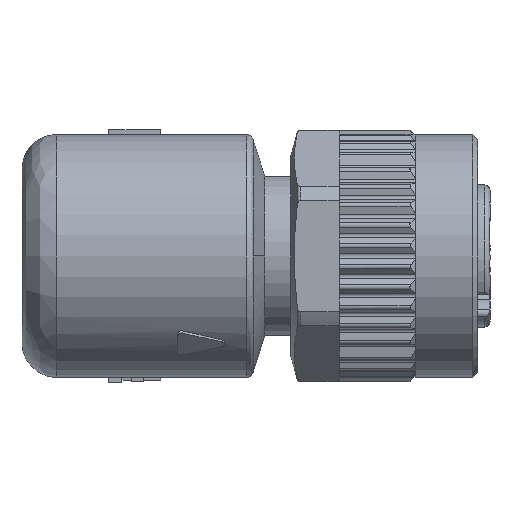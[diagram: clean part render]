
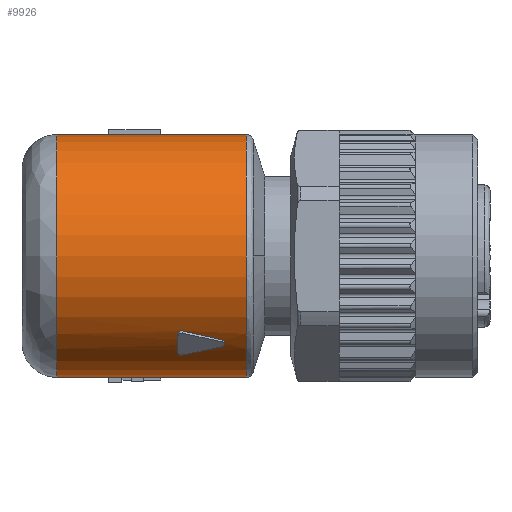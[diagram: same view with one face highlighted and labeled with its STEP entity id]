
A CAD part, left-side view. The second image highlights one B-rep face of the part: STEP entity #9926.
In plain terms, the highlighted cylindrical face has radius 7 mm (diameter 14 mm), a partial arc.
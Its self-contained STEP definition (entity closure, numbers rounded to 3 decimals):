
#43 = CYLINDRICAL_SURFACE ( 'NONE', #893, 7. ) ;
#150 = EDGE_CURVE ( 'NONE', #10716, #7501, #13731, .T. ) ;
#274 = DIRECTION ( 'NONE',  ( 0., 1., 0. ) ) ;
#367 = CARTESIAN_POINT ( 'NONE',  ( 1.609, -2.5, -4.465 ) ) ;
#454 = FACE_BOUND ( 'NONE', #12303, .T. ) ;
#470 = CARTESIAN_POINT ( 'NONE',  ( 1.952, -5.059, -4.849 ) ) ;
#482 = ORIENTED_EDGE ( 'NONE', *, *, #12151, .T. ) ;
#893 = AXIS2_PLACEMENT_3D ( 'NONE', #10616, #5299, #12003 ) ;
#928 = CARTESIAN_POINT ( 'NONE',  ( 2.76, -2.774, -5.57 ) ) ;
#1094 = CARTESIAN_POINT ( 'NONE',  ( 2.116, -5.2, -5.015 ) ) ;
#1336 = EDGE_CURVE ( 'NONE', #7163, #2844, #16529, .T. ) ;
#1565 = CARTESIAN_POINT ( 'NONE',  ( 2.395, -4.294, -5.277 ) ) ;
#1725 = CARTESIAN_POINT ( 'NONE',  ( 1.528, -2.534, -4.365 ) ) ;
#2159 =( BOUNDED_CURVE ( )  B_SPLINE_CURVE ( 3, ( #5571, #1565, #4275, #13688 ),
 .UNSPECIFIED., .F., .T. ) 
 B_SPLINE_CURVE_WITH_KNOTS ( ( 4, 4 ),
 ( 4.747, 4.847 ),
 .UNSPECIFIED. ) 
 CURVE ( )  GEOMETRIC_REPRESENTATION_ITEM ( )  RATIONAL_B_SPLINE_CURVE ( ( 1., 0.999, 0.999, 1. ) ) 
 REPRESENTATION_ITEM ( '' )  );
#2203 = CARTESIAN_POINT ( 'NONE',  ( 2.772, -2.647, -5.579 ) ) ;
#2419 = CARTESIAN_POINT ( 'NONE',  ( 2.196, -5.135, -5.092 ) ) ;
#2632 = CARTESIAN_POINT ( 'NONE',  ( 2.613, -2.5, -5.455 ) ) ;
#2716 = CARTESIAN_POINT ( 'NONE',  ( 6.98, 4.5, 7. ) ) ;
#2729 = CARTESIAN_POINT ( 'NONE',  ( 1.636, -3.533, -4.504 ) ) ;
#2844 = VERTEX_POINT ( 'NONE', #12159 ) ;
#3053 = CARTESIAN_POINT ( 'NONE',  ( 1.477, -2.713, -4.301 ) ) ;
#3334 = LINE ( 'NONE', #8194, #16810 ) ;
#3555 = CARTESIAN_POINT ( 'NONE',  ( 6.98, -6.447, 7. ) ) ;
#3623 = CARTESIAN_POINT ( 'NONE',  ( 2.754, -2.595, -5.565 ) ) ;
#3793 = CARTESIAN_POINT ( 'NONE',  ( 2.224, -5.059, -5.118 ) ) ;
#3826 = VECTOR ( 'NONE', #7468, 1000. ) ;
#4034 = ORIENTED_EDGE ( 'NONE', *, *, #14087, .T. ) ;
#4089 = CIRCLE ( 'NONE', #12686, 7. ) ;
#4095 = CARTESIAN_POINT ( 'NONE',  ( 1.79, -4.295, -4.68 ) ) ;
#4174 = DIRECTION ( 'NONE',  ( 0., 1., 0. ) ) ;
#4266 = DIRECTION ( 'NONE',  ( 0., 1., 0. ) ) ;
#4275 = CARTESIAN_POINT ( 'NONE',  ( 2.574, -3.532, -5.428 ) ) ;
#4547 = CARTESIAN_POINT ( 'NONE',  ( 6.98, -6.447, -7. ) ) ;
#4760 = VERTEX_POINT ( 'NONE', #10595 ) ;
#4996 = CARTESIAN_POINT ( 'NONE',  ( 2.654, -2.5, -5.488 ) ) ;
#5033 = ORIENTED_EDGE ( 'NONE', *, *, #8218, .T. ) ;
#5149 = VERTEX_POINT ( 'NONE', #5885 ) ;
#5299 = DIRECTION ( 'NONE',  ( 0., 1., 0. ) ) ;
#5571 = CARTESIAN_POINT ( 'NONE',  ( 2.224, -5.059, -5.118 ) ) ;
#5756 = CARTESIAN_POINT ( 'NONE',  ( 2.76, -2.774, -5.57 ) ) ;
#5885 = CARTESIAN_POINT ( 'NONE',  ( 1.492, -2.774, -4.32 ) ) ;
#6118 = CARTESIAN_POINT ( 'NONE',  ( 6.98, -0.974, -7. ) ) ;
#6353 = CARTESIAN_POINT ( 'NONE',  ( 2.772, -2.7, -5.579 ) ) ;
#6594 = VERTEX_POINT ( 'NONE', #3555 ) ;
#6848 = EDGE_CURVE ( 'NONE', #6594, #8032, #3334, .T. ) ;
#7069 = CARTESIAN_POINT ( 'NONE',  ( 1.567, -2.5, -4.415 ) ) ;
#7163 = VERTEX_POINT ( 'NONE', #470 ) ;
#7247 = EDGE_CURVE ( 'NONE', #8032, #9259, #15755, .T. ) ;
#7400 = CARTESIAN_POINT ( 'NONE',  ( 7., 4.5, 0. ) ) ;
#7468 = DIRECTION ( 'NONE',  ( 0., -1., 0. ) ) ;
#7501 = VERTEX_POINT ( 'NONE', #13159 ) ;
#7573 = ORIENTED_EDGE ( 'NONE', *, *, #1336, .T. ) ;
#7637 = EDGE_CURVE ( 'NONE', #5149, #7163, #11444, .T. ) ;
#7718 = EDGE_CURVE ( 'NONE', #8571, #4760, #4089, .T. ) ;
#7816 = CARTESIAN_POINT ( 'NONE',  ( 1.978, -5.135, -4.876 ) ) ;
#8032 = VERTEX_POINT ( 'NONE', #2716 ) ;
#8116 = CARTESIAN_POINT ( 'NONE',  ( 1.492, -2.774, -4.32 ) ) ;
#8194 = CARTESIAN_POINT ( 'NONE',  ( 6.98, -0.974, 7. ) ) ;
#8218 = EDGE_CURVE ( 'NONE', #4760, #5149, #14242, .T. ) ;
#8354 = CARTESIAN_POINT ( 'NONE',  ( 7., -2.5, 0. ) ) ;
#8571 = VERTEX_POINT ( 'NONE', #2632 ) ;
#8768 = DIRECTION ( 'NONE',  ( 0., 0., 1. ) ) ;
#9017 = CARTESIAN_POINT ( 'NONE',  ( 2.772, -2.7, -5.579 ) ) ;
#9183 = CARTESIAN_POINT ( 'NONE',  ( 2.056, -5.2, -4.955 ) ) ;
#9259 = VERTEX_POINT ( 'NONE', #17037 ) ;
#9708 = DIRECTION ( 'NONE',  ( 0., 0., 1. ) ) ;
#9926 = ADVANCED_FACE ( 'NONE', ( #14355, #454 ), #43, .T. ) ;
#10265 = ORIENTED_EDGE ( 'NONE', *, *, #13281, .T. ) ;
#10510 = ORIENTED_EDGE ( 'NONE', *, *, #7718, .T. ) ;
#10542 = CARTESIAN_POINT ( 'NONE',  ( 2.146, -5.186, -5.044 ) ) ;
#10595 = CARTESIAN_POINT ( 'NONE',  ( 1.609, -2.5, -4.465 ) ) ;
#10616 = CARTESIAN_POINT ( 'NONE',  ( 7., -0.974, 0. ) ) ;
#10716 = VERTEX_POINT ( 'NONE', #5756 ) ;
#11163 = CARTESIAN_POINT ( 'NONE',  ( 1.482, -2.641, -4.307 ) ) ;
#11444 =( BOUNDED_CURVE ( )  B_SPLINE_CURVE ( 3, ( #8116, #2729, #4095, #13528 ),
 .UNSPECIFIED., .F., .F. ) 
 B_SPLINE_CURVE_WITH_KNOTS ( ( 4, 4 ),
 ( 1.451, 1.551 ),
 .UNSPECIFIED. ) 
 CURVE ( )  GEOMETRIC_REPRESENTATION_ITEM ( )  RATIONAL_B_SPLINE_CURVE ( ( 1., 0.999, 0.999, 1. ) ) 
 REPRESENTATION_ITEM ( '' )  );
#11878 = CARTESIAN_POINT ( 'NONE',  ( 2.215, -5.099, -5.109 ) ) ;
#12003 = DIRECTION ( 'NONE',  ( 0., 0., 1. ) ) ;
#12151 = EDGE_CURVE ( 'NONE', #7501, #8571, #15882, .T. ) ;
#12159 = CARTESIAN_POINT ( 'NONE',  ( 2.224, -5.059, -5.118 ) ) ;
#12303 = EDGE_LOOP ( 'NONE', ( #10510, #5033, #15740, #7573, #4034, #17206, #482 ) ) ;
#12328 = CARTESIAN_POINT ( 'NONE',  ( 7., -6.447, 0. ) ) ;
#12501 = CARTESIAN_POINT ( 'NONE',  ( 1.492, -2.774, -4.32 ) ) ;
#12686 = AXIS2_PLACEMENT_3D ( 'NONE', #8354, #274, #9708 ) ;
#13045 = EDGE_CURVE ( 'NONE', #14240, #6594, #17069, .T. ) ;
#13055 = CARTESIAN_POINT ( 'NONE',  ( 2.695, -2.522, -5.52 ) ) ;
#13103 = ORIENTED_EDGE ( 'NONE', *, *, #6848, .T. ) ;
#13158 = CARTESIAN_POINT ( 'NONE',  ( 1.96, -5.099, -4.858 ) ) ;
#13159 = CARTESIAN_POINT ( 'NONE',  ( 2.772, -2.7, -5.579 ) ) ;
#13281 = EDGE_CURVE ( 'NONE', #9259, #14240, #14589, .T. ) ;
#13528 = CARTESIAN_POINT ( 'NONE',  ( 1.952, -5.059, -4.849 ) ) ;
#13678 = DIRECTION ( 'NONE',  ( 0., 0., 1. ) ) ;
#13688 = CARTESIAN_POINT ( 'NONE',  ( 2.76, -2.774, -5.57 ) ) ;
#13731 = B_SPLINE_CURVE_WITH_KNOTS ( 'NONE', 3,
 ( #928, #16311, #16368, #6353 ),
 .UNSPECIFIED., .F., .F.,
 ( 4, 4 ),
 ( 0., 0. ),
 .UNSPECIFIED. ) ;
#14087 = EDGE_CURVE ( 'NONE', #2844, #10716, #2159, .T. ) ;
#14240 = VERTEX_POINT ( 'NONE', #4547 ) ;
#14242 = B_SPLINE_CURVE_WITH_KNOTS ( 'NONE', 3,
 ( #367, #7069, #1725, #11163, #3053, #12501 ),
 .UNSPECIFIED., .F., .F.,
 ( 4, 2, 4 ),
 ( 0., 0., 0. ),
 .UNSPECIFIED. ) ;
#14355 = FACE_OUTER_BOUND ( 'NONE', #16758, .T. ) ;
#14425 = CARTESIAN_POINT ( 'NONE',  ( 2.613, -2.5, -5.455 ) ) ;
#14589 = LINE ( 'NONE', #6118, #3826 ) ;
#14949 = AXIS2_PLACEMENT_3D ( 'NONE', #12328, #4266, #13678 ) ;
#15171 = AXIS2_PLACEMENT_3D ( 'NONE', #7400, #16805, #8768 ) ;
#15353 = ORIENTED_EDGE ( 'NONE', *, *, #13045, .T. ) ;
#15740 = ORIENTED_EDGE ( 'NONE', *, *, #7637, .T. ) ;
#15755 = CIRCLE ( 'NONE', #15171, 7. ) ;
#15865 = CARTESIAN_POINT ( 'NONE',  ( 1.952, -5.059, -4.849 ) ) ;
#15882 = B_SPLINE_CURVE_WITH_KNOTS ( 'NONE', 3,
 ( #9017, #2203, #3623, #13055, #4996, #14425 ),
 .UNSPECIFIED., .F., .F.,
 ( 4, 2, 4 ),
 ( 0., 0., 0. ),
 .UNSPECIFIED. ) ;
#16311 = CARTESIAN_POINT ( 'NONE',  ( 2.768, -2.751, -5.576 ) ) ;
#16359 = ORIENTED_EDGE ( 'NONE', *, *, #7247, .T. ) ;
#16368 = CARTESIAN_POINT ( 'NONE',  ( 2.772, -2.725, -5.579 ) ) ;
#16529 = B_SPLINE_CURVE_WITH_KNOTS ( 'NONE', 3,
 ( #15865, #13158, #7816, #17198, #9183, #1094, #10542, #2419, #11878, #3793 ),
 .UNSPECIFIED., .F., .F.,
 ( 4, 2, 2, 2, 4 ),
 ( 0., 0., 0., 0., 0.001 ),
 .UNSPECIFIED. ) ;
#16758 = EDGE_LOOP ( 'NONE', ( #10265, #15353, #13103, #16359 ) ) ;
#16805 = DIRECTION ( 'NONE',  ( 0., -1., 0. ) ) ;
#16810 = VECTOR ( 'NONE', #4174, 1000. ) ;
#17037 = CARTESIAN_POINT ( 'NONE',  ( 6.98, 4.5, -7. ) ) ;
#17069 = CIRCLE ( 'NONE', #14949, 7. ) ;
#17198 = CARTESIAN_POINT ( 'NONE',  ( 2.026, -5.186, -4.925 ) ) ;
#17206 = ORIENTED_EDGE ( 'NONE', *, *, #150, .T. ) ;
